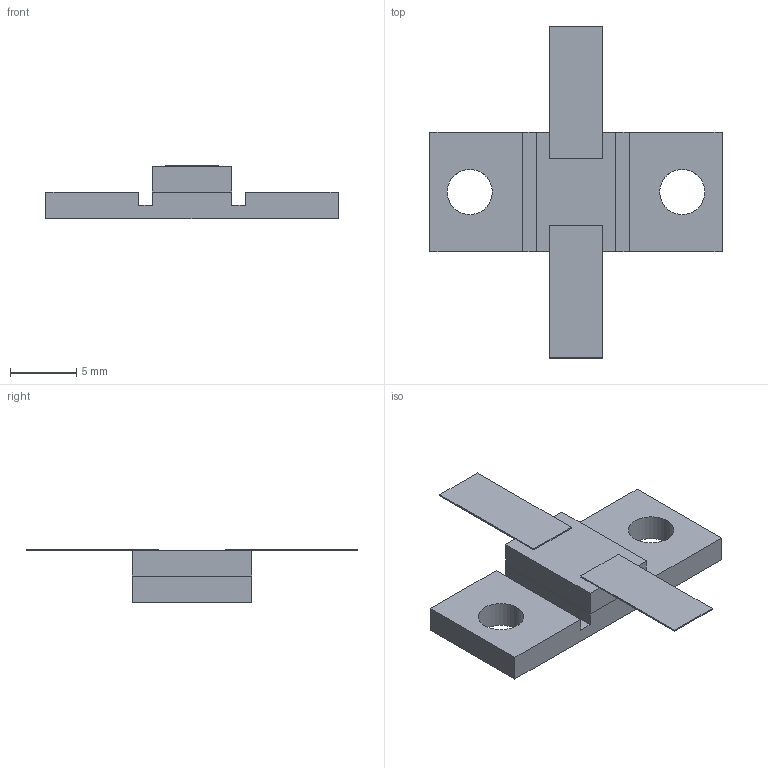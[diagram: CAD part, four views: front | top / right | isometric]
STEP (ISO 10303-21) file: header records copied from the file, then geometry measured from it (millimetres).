
FILE_DESCRIPTION(('STEP AP203'), '1');
FILE_NAME('Ð1-9-50', '', ('UNSPECIFIED'), ('UNSPECIFIED'), 'ASCON STEP Converter 1.6', 'ASCON Math Kernel', '');
FILE_SCHEMA(('CONFIG_CONTROL_DESIGN'));
Length unit declared in the file: millimetre
Bounding box: 22 x 25 x 4 mm (x, y, z)
Volume: 452.3 mm3; surface area: 857 mm2
Topology: 2 solids, 2 shells, 34 faces, 86 edges, 56 vertices
Faces by surface type: plane 32, cylinder 2
Full cylindrical faces by diameter (mm): 3.4 x2
Entity records: 1322 total; most frequent: CARTESIAN_POINT 175, ORIENTED_EDGE 168, DIRECTION 158, EDGE_CURVE 84, LINE 80, VECTOR 80, VERTEX_POINT 56, EDGE_LOOP 40
